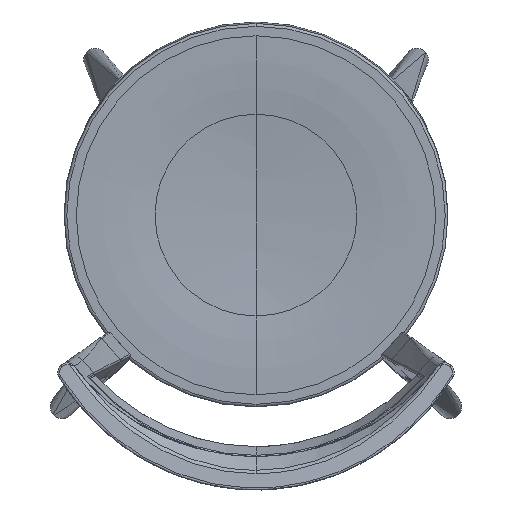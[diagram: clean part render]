
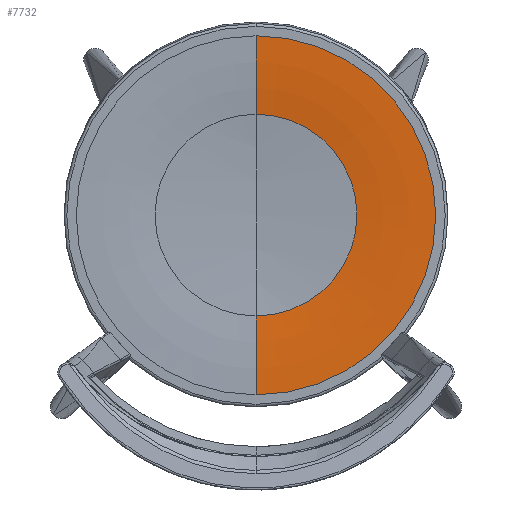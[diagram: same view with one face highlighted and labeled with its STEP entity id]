
A CAD part, top view. The second image highlights one B-rep face of the part: STEP entity #7732.
In plain terms, the highlighted toroidal (fillet/blend) face has major radius 196.145 mm and minor radius 780 mm.
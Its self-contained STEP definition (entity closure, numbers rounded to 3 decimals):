
#180 = EDGE_CURVE ( 'NONE', #2980, #9282, #5208, .T. ) ;
#436 = AXIS2_PLACEMENT_3D ( 'NONE', #518, #5186, #4031 ) ;
#518 = CARTESIAN_POINT ( 'NONE',  ( 0., 231.291, -318.651 ) ) ;
#1384 = ORIENTED_EDGE ( 'NONE', *, *, #14769, .F. ) ;
#2089 = DIRECTION ( 'NONE',  ( 0., 0.999, 0.048 ) ) ;
#2161 = CARTESIAN_POINT ( 'NONE',  ( 0., -160.55, -337.42 ) ) ;
#2623 = CIRCLE ( 'NONE', #14393, 110.194 ) ;
#2980 = VERTEX_POINT ( 'NONE', #9837 ) ;
#4031 = DIRECTION ( 'NONE',  ( 0., 0., 1. ) ) ;
#4534 = EDGE_CURVE ( 'NONE', #13917, #2980, #6218, .T. ) ;
#4756 = VERTEX_POINT ( 'NONE', #13505 ) ;
#5186 = DIRECTION ( 'NONE',  ( -1., 0., 0. ) ) ;
#5208 = CIRCLE ( 'NONE', #11087, 196.145 ) ;
#5533 = DIRECTION ( 'NONE',  ( 0., 1., 0. ) ) ;
#5964 = CARTESIAN_POINT ( 'NONE',  ( 0., 35.371, -328.035 ) ) ;
#6218 = CIRCLE ( 'NONE', #8181, 780. ) ;
#6556 = ORIENTED_EDGE ( 'NONE', *, *, #4534, .T. ) ;
#6605 = DIRECTION ( 'NONE',  ( 0., 0.999, 0.048 ) ) ;
#7732 = ADVANCED_FACE ( 'NONE', ( #11798 ), #14348, .T. ) ;
#7836 = DIRECTION ( 'NONE',  ( 0., 0.048, -0.999 ) ) ;
#7954 = DIRECTION ( 'NONE',  ( 0., -0.048, 0.999 ) ) ;
#8181 = AXIS2_PLACEMENT_3D ( 'NONE', #2161, #9367, #5533 ) ;
#9030 = CARTESIAN_POINT ( 'NONE',  ( 0., -1.948, 451.071 ) ) ;
#9282 = VERTEX_POINT ( 'NONE', #13665 ) ;
#9353 = EDGE_LOOP ( 'NONE', ( #1384, #6556, #14270, #13865 ) ) ;
#9367 = DIRECTION ( 'NONE',  ( 1., 0., 0. ) ) ;
#9685 = AXIS2_PLACEMENT_3D ( 'NONE', #5964, #7836, #6605 ) ;
#9837 = CARTESIAN_POINT ( 'NONE',  ( 0., -197.869, 441.687 ) ) ;
#11087 = AXIS2_PLACEMENT_3D ( 'NONE', #9030, #7954, #12333 ) ;
#11694 = CIRCLE ( 'NONE', #436, 780. ) ;
#11798 = FACE_OUTER_BOUND ( 'NONE', #9353, .T. ) ;
#11845 = EDGE_CURVE ( 'NONE', #4756, #9282, #11694, .T. ) ;
#12333 = DIRECTION ( 'NONE',  ( 0., 0.999, 0.048 ) ) ;
#13505 = CARTESIAN_POINT ( 'NONE',  ( 0., 108.347, 451.599 ) ) ;
#13531 = CARTESIAN_POINT ( 'NONE',  ( 0., -1.721, 446.327 ) ) ;
#13665 = CARTESIAN_POINT ( 'NONE',  ( 0., 193.972, 460.456 ) ) ;
#13756 = DIRECTION ( 'NONE',  ( 0., -0.048, 0.999 ) ) ;
#13865 = ORIENTED_EDGE ( 'NONE', *, *, #11845, .F. ) ;
#13917 = VERTEX_POINT ( 'NONE', #14131 ) ;
#14131 = CARTESIAN_POINT ( 'NONE',  ( 0., -111.789, 441.054 ) ) ;
#14270 = ORIENTED_EDGE ( 'NONE', *, *, #180, .T. ) ;
#14348 = TOROIDAL_SURFACE ( 'NONE', #9685, 196.145, 780. ) ;
#14393 = AXIS2_PLACEMENT_3D ( 'NONE', #13531, #13756, #2089 ) ;
#14769 = EDGE_CURVE ( 'NONE', #13917, #4756, #2623, .T. ) ;
